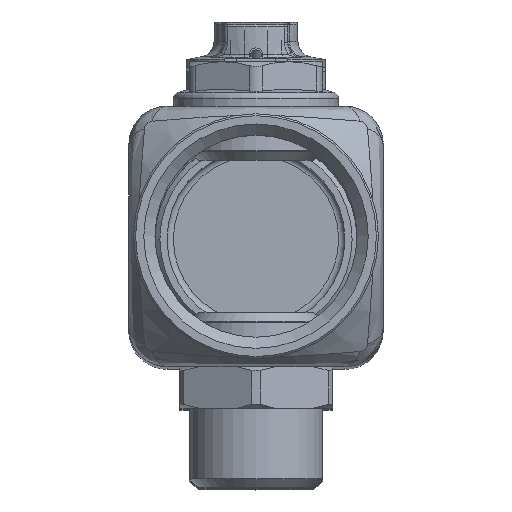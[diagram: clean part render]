
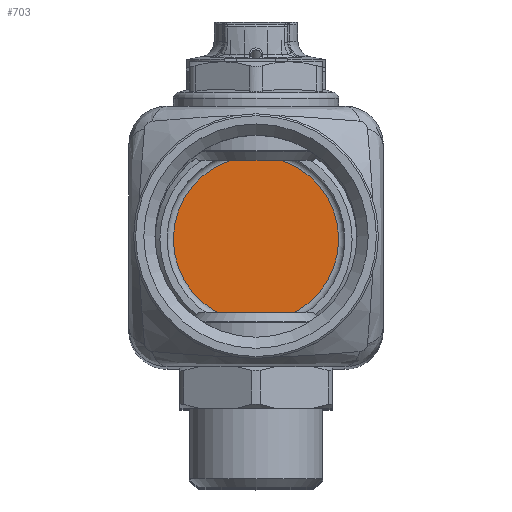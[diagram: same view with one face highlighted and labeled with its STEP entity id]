
A CAD part, top view. The second image highlights one B-rep face of the part: STEP entity #703.
In plain terms, the highlighted planar face has unit normal (0, 0, 1).
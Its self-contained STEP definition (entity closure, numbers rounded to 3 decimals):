
#703=ADVANCED_FACE('',(#9268),#9270,.T.);
#9268=FACE_BOUND('',#9269,.T.);
#9269=EDGE_LOOP('',(#12898));
#9270=PLANE('',#9271);
#9271=AXIS2_PLACEMENT_3D('',#9272,#9273,#9274);
#9272=CARTESIAN_POINT('',(0.,0.,-134.75));
#9273=DIRECTION('',(0.,0.,1.));
#9274=DIRECTION('',(1.,0.,0.));
#12898=ORIENTED_EDGE('',*,*,#15708,.T.);
#15708=EDGE_CURVE('',#18778,#18778,#18779,.T.);
#18778=VERTEX_POINT('',#29630);
#18779=CIRCLE('',#29631,13.);
#29630=CARTESIAN_POINT('',(13.,0.,-134.75));
#29631=AXIS2_PLACEMENT_3D('',#29632,#29633,#29634);
#29632=CARTESIAN_POINT('',(0.,0.,-134.75));
#29633=DIRECTION('',(0.,0.,1.));
#29634=DIRECTION('',(1.,0.,0.));
